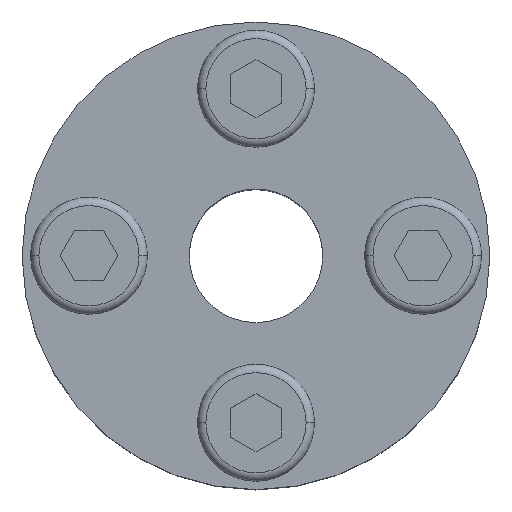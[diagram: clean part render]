
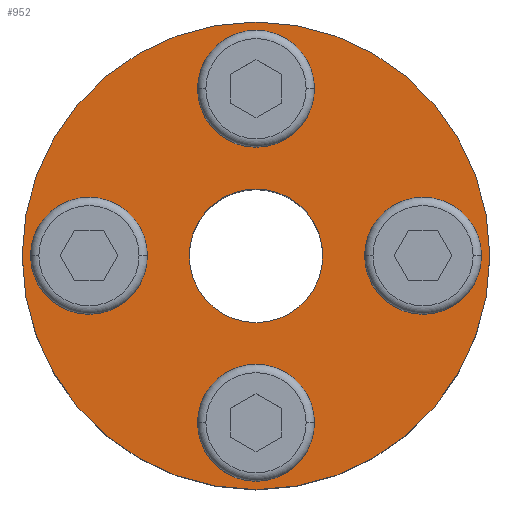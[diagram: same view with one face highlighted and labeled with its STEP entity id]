
A CAD part, top view. The second image highlights one B-rep face of the part: STEP entity #952.
In plain terms, the highlighted planar face has unit normal (0, 0, 1).
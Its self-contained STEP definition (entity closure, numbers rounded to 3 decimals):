
#8 = ORIENTED_EDGE ( 'NONE', *, *, #298, .T. ) ;
#39 = CARTESIAN_POINT ( 'NONE',  ( 6.5, 0., 0. ) ) ;
#45 = CARTESIAN_POINT ( 'NONE',  ( -10., 0., 0. ) ) ;
#62 = CARTESIAN_POINT ( 'NONE',  ( 0., -10., 0. ) ) ;
#65 = DIRECTION ( 'NONE',  ( 0., 0., 1. ) ) ;
#93 = EDGE_CURVE ( 'NONE', #1271, #353, #1209, .T. ) ;
#133 = ORIENTED_EDGE ( 'NONE', *, *, #93, .F. ) ;
#148 = EDGE_CURVE ( 'NONE', #353, #1271, #340, .T. ) ;
#161 = DIRECTION ( 'NONE',  ( 0., 0., 1. ) ) ;
#196 = DIRECTION ( 'NONE',  ( -1., 0., 0. ) ) ;
#202 = VERTEX_POINT ( 'NONE', #1514 ) ;
#205 = VERTEX_POINT ( 'NONE', #39 ) ;
#229 = FACE_BOUND ( 'NONE', #1359, .T. ) ;
#230 = DIRECTION ( 'NONE',  ( 0., 0., 1. ) ) ;
#237 = EDGE_LOOP ( 'NONE', ( #1191, #321 ) ) ;
#240 = CARTESIAN_POINT ( 'NONE',  ( 4., 0., 0. ) ) ;
#248 = EDGE_CURVE ( 'NONE', #950, #408, #1086, .T. ) ;
#259 = FACE_OUTER_BOUND ( 'NONE', #1140, .T. ) ;
#260 = AXIS2_PLACEMENT_3D ( 'NONE', #62, #1624, #313 ) ;
#265 = DIRECTION ( 'NONE',  ( -1., 0., 0. ) ) ;
#298 = EDGE_CURVE ( 'NONE', #1550, #202, #1292, .T. ) ;
#299 = FACE_BOUND ( 'NONE', #237, .T. ) ;
#313 = DIRECTION ( 'NONE',  ( -1., 0., 0. ) ) ;
#314 = AXIS2_PLACEMENT_3D ( 'NONE', #926, #1461, #798 ) ;
#317 = CARTESIAN_POINT ( 'NONE',  ( -10., 0., 0. ) ) ;
#321 = ORIENTED_EDGE ( 'NONE', *, *, #766, .F. ) ;
#328 = CARTESIAN_POINT ( 'NONE',  ( 0., 0., 0. ) ) ;
#337 = CIRCLE ( 'NONE', #992, 14. ) ;
#338 = CARTESIAN_POINT ( 'NONE',  ( 3.5, 10., 0. ) ) ;
#340 = CIRCLE ( 'NONE', #1017, 3.5 ) ;
#353 = VERTEX_POINT ( 'NONE', #1391 ) ;
#380 = EDGE_CURVE ( 'NONE', #202, #1550, #337, .T. ) ;
#400 = EDGE_CURVE ( 'NONE', #1576, #205, #587, .T. ) ;
#405 = DIRECTION ( 'NONE',  ( 0., 0., 1. ) ) ;
#408 = VERTEX_POINT ( 'NONE', #338 ) ;
#419 = CARTESIAN_POINT ( 'NONE',  ( -4., 0., 0. ) ) ;
#421 = ORIENTED_EDGE ( 'NONE', *, *, #1182, .F. ) ;
#429 = PLANE ( 'NONE',  #990 ) ;
#448 = CARTESIAN_POINT ( 'NONE',  ( 10., 0., 0. ) ) ;
#460 = ORIENTED_EDGE ( 'NONE', *, *, #1058, .F. ) ;
#469 = FACE_BOUND ( 'NONE', #484, .T. ) ;
#484 = EDGE_LOOP ( 'NONE', ( #421, #1437 ) ) ;
#532 = CARTESIAN_POINT ( 'NONE',  ( 0., -10., 0. ) ) ;
#536 = AXIS2_PLACEMENT_3D ( 'NONE', #1305, #1031, #1669 ) ;
#543 = ORIENTED_EDGE ( 'NONE', *, *, #148, .F. ) ;
#562 = DIRECTION ( 'NONE',  ( 0., 0., -1. ) ) ;
#575 = DIRECTION ( 'NONE',  ( 0., 0., 1. ) ) ;
#587 = CIRCLE ( 'NONE', #932, 3.5 ) ;
#591 = CARTESIAN_POINT ( 'NONE',  ( -3.5, -10., 0. ) ) ;
#605 = EDGE_LOOP ( 'NONE', ( #460, #1033 ) ) ;
#639 = DIRECTION ( 'NONE',  ( 1., 0., 0. ) ) ;
#663 = CIRCLE ( 'NONE', #752, 3.5 ) ;
#689 = CARTESIAN_POINT ( 'NONE',  ( -3.5, 10., 0. ) ) ;
#696 = DIRECTION ( 'NONE',  ( 1., 0., 0. ) ) ;
#698 = DIRECTION ( 'NONE',  ( 1., 0., 0. ) ) ;
#705 = CARTESIAN_POINT ( 'NONE',  ( 13.5, 0., 0. ) ) ;
#752 = AXIS2_PLACEMENT_3D ( 'NONE', #1070, #405, #265 ) ;
#758 = CIRCLE ( 'NONE', #1320, 3.5 ) ;
#766 = EDGE_CURVE ( 'NONE', #408, #950, #663, .T. ) ;
#787 = EDGE_CURVE ( 'NONE', #1233, #1625, #1060, .T. ) ;
#798 = DIRECTION ( 'NONE',  ( 1., 0., 0. ) ) ;
#819 = DIRECTION ( 'NONE',  ( 0., 0., 1. ) ) ;
#866 = AXIS2_PLACEMENT_3D ( 'NONE', #45, #575, #954 ) ;
#910 = CARTESIAN_POINT ( 'NONE',  ( -6.5, 0., 0. ) ) ;
#913 = DIRECTION ( 'NONE',  ( 0., 0., 1. ) ) ;
#920 = ORIENTED_EDGE ( 'NONE', *, *, #971, .F. ) ;
#926 = CARTESIAN_POINT ( 'NONE',  ( 0., 0., 0. ) ) ;
#932 = AXIS2_PLACEMENT_3D ( 'NONE', #448, #65, #977 ) ;
#950 = VERTEX_POINT ( 'NONE', #689 ) ;
#952 = ADVANCED_FACE ( 'NONE', ( #299, #469, #1319, #1235, #229, #259 ), #429, .F. ) ;
#954 = DIRECTION ( 'NONE',  ( -1., 0., 0. ) ) ;
#971 = EDGE_CURVE ( 'NONE', #1625, #1233, #1580, .T. ) ;
#972 = DIRECTION ( 'NONE',  ( 0., 0., 1. ) ) ;
#977 = DIRECTION ( 'NONE',  ( -1., 0., 0. ) ) ;
#988 = CARTESIAN_POINT ( 'NONE',  ( -4., 0., 0. ) ) ;
#990 = AXIS2_PLACEMENT_3D ( 'NONE', #419, #562, #1348 ) ;
#992 = AXIS2_PLACEMENT_3D ( 'NONE', #1127, #1495, #698 ) ;
#994 = CARTESIAN_POINT ( 'NONE',  ( 3.5, -10., 0. ) ) ;
#1017 = AXIS2_PLACEMENT_3D ( 'NONE', #317, #972, #196 ) ;
#1031 = DIRECTION ( 'NONE',  ( 0., 0., 1. ) ) ;
#1033 = ORIENTED_EDGE ( 'NONE', *, *, #1336, .F. ) ;
#1048 = AXIS2_PLACEMENT_3D ( 'NONE', #1465, #161, #1606 ) ;
#1058 = EDGE_CURVE ( 'NONE', #1641, #1658, #1542, .T. ) ;
#1060 = CIRCLE ( 'NONE', #314, 4. ) ;
#1070 = CARTESIAN_POINT ( 'NONE',  ( 0., 10., 0. ) ) ;
#1078 = AXIS2_PLACEMENT_3D ( 'NONE', #1493, #819, #696 ) ;
#1086 = CIRCLE ( 'NONE', #1048, 3.5 ) ;
#1113 = CARTESIAN_POINT ( 'NONE',  ( 14., 0., 0. ) ) ;
#1127 = CARTESIAN_POINT ( 'NONE',  ( 0., 0., 0. ) ) ;
#1140 = EDGE_LOOP ( 'NONE', ( #8, #1614 ) ) ;
#1182 = EDGE_CURVE ( 'NONE', #205, #1576, #1217, .T. ) ;
#1191 = ORIENTED_EDGE ( 'NONE', *, *, #248, .F. ) ;
#1209 = CIRCLE ( 'NONE', #866, 3.5 ) ;
#1217 = CIRCLE ( 'NONE', #536, 3.5 ) ;
#1224 = AXIS2_PLACEMENT_3D ( 'NONE', #328, #230, #639 ) ;
#1233 = VERTEX_POINT ( 'NONE', #240 ) ;
#1234 = EDGE_LOOP ( 'NONE', ( #543, #133 ) ) ;
#1235 = FACE_BOUND ( 'NONE', #1234, .T. ) ;
#1271 = VERTEX_POINT ( 'NONE', #910 ) ;
#1292 = CIRCLE ( 'NONE', #1224, 14. ) ;
#1305 = CARTESIAN_POINT ( 'NONE',  ( 10., 0., 0. ) ) ;
#1319 = FACE_BOUND ( 'NONE', #605, .T. ) ;
#1320 = AXIS2_PLACEMENT_3D ( 'NONE', #532, #913, #1581 ) ;
#1336 = EDGE_CURVE ( 'NONE', #1658, #1641, #758, .T. ) ;
#1348 = DIRECTION ( 'NONE',  ( -1., 0., 0. ) ) ;
#1359 = EDGE_LOOP ( 'NONE', ( #1409, #920 ) ) ;
#1391 = CARTESIAN_POINT ( 'NONE',  ( -13.5, 0., 0. ) ) ;
#1409 = ORIENTED_EDGE ( 'NONE', *, *, #787, .F. ) ;
#1437 = ORIENTED_EDGE ( 'NONE', *, *, #400, .F. ) ;
#1461 = DIRECTION ( 'NONE',  ( 0., 0., 1. ) ) ;
#1465 = CARTESIAN_POINT ( 'NONE',  ( 0., 10., 0. ) ) ;
#1493 = CARTESIAN_POINT ( 'NONE',  ( 0., 0., 0. ) ) ;
#1495 = DIRECTION ( 'NONE',  ( 0., 0., 1. ) ) ;
#1514 = CARTESIAN_POINT ( 'NONE',  ( -14., 0., 0. ) ) ;
#1542 = CIRCLE ( 'NONE', #260, 3.5 ) ;
#1550 = VERTEX_POINT ( 'NONE', #1113 ) ;
#1576 = VERTEX_POINT ( 'NONE', #705 ) ;
#1580 = CIRCLE ( 'NONE', #1078, 4. ) ;
#1581 = DIRECTION ( 'NONE',  ( -1., 0., 0. ) ) ;
#1606 = DIRECTION ( 'NONE',  ( -1., 0., 0. ) ) ;
#1614 = ORIENTED_EDGE ( 'NONE', *, *, #380, .T. ) ;
#1624 = DIRECTION ( 'NONE',  ( 0., 0., 1. ) ) ;
#1625 = VERTEX_POINT ( 'NONE', #988 ) ;
#1641 = VERTEX_POINT ( 'NONE', #591 ) ;
#1658 = VERTEX_POINT ( 'NONE', #994 ) ;
#1669 = DIRECTION ( 'NONE',  ( -1., 0., 0. ) ) ;
